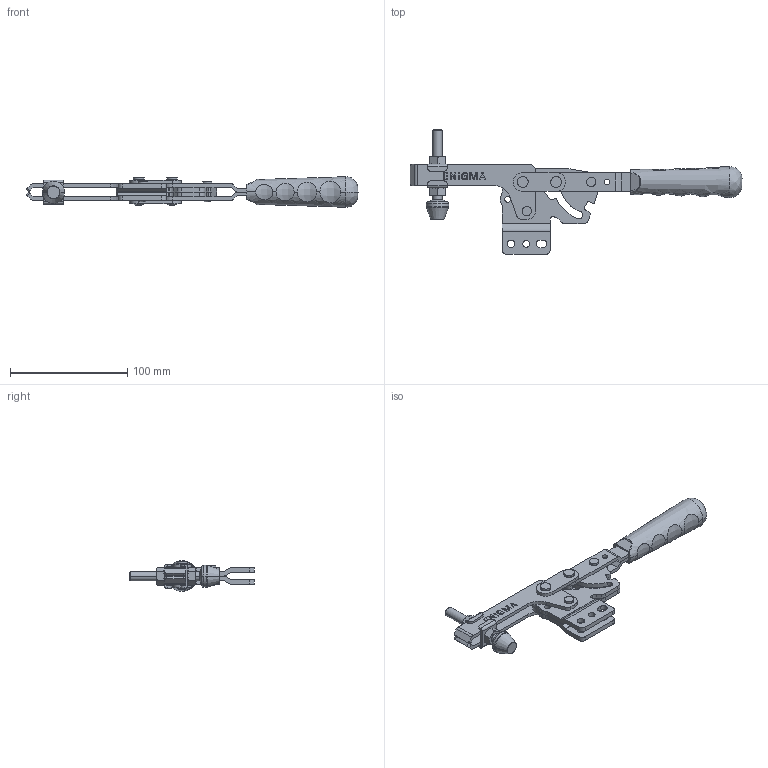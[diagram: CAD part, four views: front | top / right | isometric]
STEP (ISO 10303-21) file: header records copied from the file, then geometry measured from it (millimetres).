
FILE_DESCRIPTION (( 'STEP AP203' ), '1' );
FILE_NAME ('1234_D.STEP', '2022-11-26T18:18:47', ( '' ), ( '' ), 'SwSTEP 2.0', 'SolidWorks 2023', '' );
FILE_SCHEMA (( 'CONFIG_CONTROL_DESIGN' ));
Length unit declared in the file: millimetre
Products named in the file (14): M8 Bask_X2_0131_X0__Varsay_X2_0131_X0_lan; M8 Ask_X2_0131_X0__Varsay_X2_0131_X0_lan; Pim_5x18_Varsay_X2_0131_X0_lan; Aynalama2225_Bask_X2_0131_X0_Kolu; 2225_KozaMafsal; Pim_6x24_5_Varsay_X2_0131_X0_lan; M8 Bask_X2_0131_X0_ Grubu_Varsay_X2_0131_X0_lan; 2225_Bask_X2_0131_X0_Kolu; 2225_HareketKolu; 1234_D; C95_Yeni_Tutamak_Varsay_X2_0131_X0_lan; Aynalama2225_UD_Govde; 2225_UD_Govde; M8 Somun_M8 Somun
Assembly tree (19 placements, depth 3):
  1234_D
    2225_UD_Govde
    2225_Bask_X2_0131_X0_Kolu
    2225_KozaMafsal  x2
    2225_HareketKolu  x2
    M8 Bask_X2_0131_X0_ Grubu_Varsay_X2_0131_X0_lan
      M8 Ask_X2_0131_X0__Varsay_X2_0131_X0_lan  x2
      M8 Bask_X2_0131_X0__Varsay_X2_0131_X0_lan
    Aynalama2225_Bask_X2_0131_X0_Kolu
    Pim_5x18_Varsay_X2_0131_X0_lan  x2
    Pim_6x24_5_Varsay_X2_0131_X0_lan  x2
    Aynalama2225_UD_Govde
    M8 Somun_M8 Somun  x2
    C95_Yeni_Tutamak_Varsay_X2_0131_X0_lan
Bounding box: 283.4 x 106.55 x 26.35 mm (x, y, z)
Volume: 107840.3 mm3; surface area: 67612.5 mm2
Topology: 18 solids, 18 shells, 941 faces, 2525 edges, 1651 vertices
Faces by surface type: plane 470, cylinder 286, bspline 155, cone 30
Entity records: 32500 total; most frequent: CARTESIAN_POINT 12595, ORIENTED_EDGE 4038, DIRECTION 3433, EDGE_CURVE 2019, VERTEX_POINT 1327, VECTOR 1227, LINE 1227, AXIS2_PLACEMENT_3D 1103
